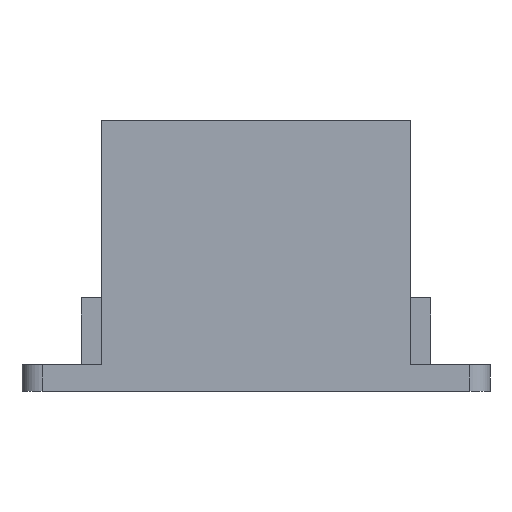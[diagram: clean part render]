
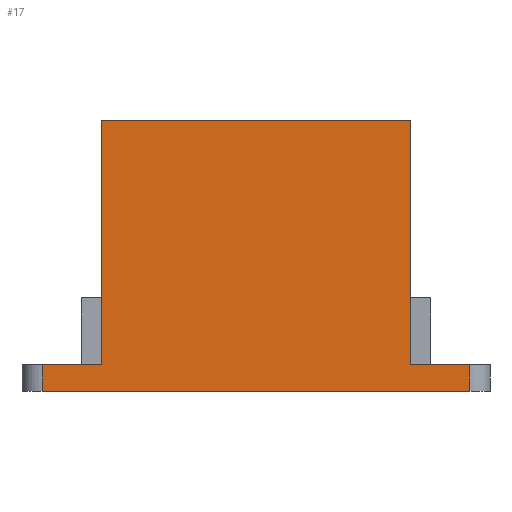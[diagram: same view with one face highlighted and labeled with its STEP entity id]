
A CAD part, front view. The second image highlights one B-rep face of the part: STEP entity #17.
In plain terms, the highlighted planar face has unit normal (0, -1, 0).
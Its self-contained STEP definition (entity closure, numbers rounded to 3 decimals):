
#17 = ADVANCED_FACE('',(#18),#32,.F.);
#18 = FACE_BOUND('',#19,.F.);
#19 = EDGE_LOOP('',(#20,#55,#83,#111,#139,#167,#195,#218));
#20 = ORIENTED_EDGE('',*,*,#21,.F.);
#21 = EDGE_CURVE('',#22,#24,#26,.T.);
#22 = VERTEX_POINT('',#23);
#23 = CARTESIAN_POINT('',(-32.,-19.86,0.));
#24 = VERTEX_POINT('',#25);
#25 = CARTESIAN_POINT('',(32.,-19.86,0.));
#26 = SURFACE_CURVE('',#27,(#31,#43),.PCURVE_S1.);
#27 = LINE('',#28,#29);
#28 = CARTESIAN_POINT('',(-32.,-19.86,0.));
#29 = VECTOR('',#30,1.);
#30 = DIRECTION('',(1.,0.,0.));
#31 = PCURVE('',#32,#37);
#32 = PLANE('',#33);
#33 = AXIS2_PLACEMENT_3D('',#34,#35,#36);
#34 = CARTESIAN_POINT('',(-35.,-19.86,0.));
#35 = DIRECTION('',(0.,1.,0.));
#36 = DIRECTION('',(1.,0.,0.));
#37 = DEFINITIONAL_REPRESENTATION('',(#38),#42);
#38 = LINE('',#39,#40);
#39 = CARTESIAN_POINT('',(3.,0.));
#40 = VECTOR('',#41,1.);
#41 = DIRECTION('',(1.,0.));
#42 = ( GEOMETRIC_REPRESENTATION_CONTEXT(2) 
PARAMETRIC_REPRESENTATION_CONTEXT() REPRESENTATION_CONTEXT('2D SPACE',''
  ) );
#43 = PCURVE('',#44,#49);
#44 = PLANE('',#45);
#45 = AXIS2_PLACEMENT_3D('',#46,#47,#48);
#46 = CARTESIAN_POINT('',(0.,0.,0.));
#47 = DIRECTION('',(0.,0.,1.));
#48 = DIRECTION('',(1.,0.,-0.));
#49 = DEFINITIONAL_REPRESENTATION('',(#50),#54);
#50 = LINE('',#51,#52);
#51 = CARTESIAN_POINT('',(-32.,-19.86));
#52 = VECTOR('',#53,1.);
#53 = DIRECTION('',(1.,0.));
#54 = ( GEOMETRIC_REPRESENTATION_CONTEXT(2) 
PARAMETRIC_REPRESENTATION_CONTEXT() REPRESENTATION_CONTEXT('2D SPACE',''
  ) );
#55 = ORIENTED_EDGE('',*,*,#56,.T.);
#56 = EDGE_CURVE('',#22,#57,#59,.T.);
#57 = VERTEX_POINT('',#58);
#58 = CARTESIAN_POINT('',(-32.,-19.86,4.));
#59 = SURFACE_CURVE('',#60,(#64,#71),.PCURVE_S1.);
#60 = LINE('',#61,#62);
#61 = CARTESIAN_POINT('',(-32.,-19.86,0.));
#62 = VECTOR('',#63,1.);
#63 = DIRECTION('',(0.,0.,1.));
#64 = PCURVE('',#32,#65);
#65 = DEFINITIONAL_REPRESENTATION('',(#66),#70);
#66 = LINE('',#67,#68);
#67 = CARTESIAN_POINT('',(3.,0.));
#68 = VECTOR('',#69,1.);
#69 = DIRECTION('',(0.,-1.));
#70 = ( GEOMETRIC_REPRESENTATION_CONTEXT(2) 
PARAMETRIC_REPRESENTATION_CONTEXT() REPRESENTATION_CONTEXT('2D SPACE',''
  ) );
#71 = PCURVE('',#72,#77);
#72 = CYLINDRICAL_SURFACE('',#73,3.);
#73 = AXIS2_PLACEMENT_3D('',#74,#75,#76);
#74 = CARTESIAN_POINT('',(-32.,-16.86,0.));
#75 = DIRECTION('',(0.,0.,1.));
#76 = DIRECTION('',(0.,-1.,0.));
#77 = DEFINITIONAL_REPRESENTATION('',(#78),#82);
#78 = LINE('',#79,#80);
#79 = CARTESIAN_POINT('',(-0.,0.));
#80 = VECTOR('',#81,1.);
#81 = DIRECTION('',(-0.,1.));
#82 = ( GEOMETRIC_REPRESENTATION_CONTEXT(2) 
PARAMETRIC_REPRESENTATION_CONTEXT() REPRESENTATION_CONTEXT('2D SPACE',''
  ) );
#83 = ORIENTED_EDGE('',*,*,#84,.T.);
#84 = EDGE_CURVE('',#57,#85,#87,.T.);
#85 = VERTEX_POINT('',#86);
#86 = CARTESIAN_POINT('',(-23.11,-19.86,4.));
#87 = SURFACE_CURVE('',#88,(#92,#99),.PCURVE_S1.);
#88 = LINE('',#89,#90);
#89 = CARTESIAN_POINT('',(-35.,-19.86,4.));
#90 = VECTOR('',#91,1.);
#91 = DIRECTION('',(1.,0.,0.));
#92 = PCURVE('',#32,#93);
#93 = DEFINITIONAL_REPRESENTATION('',(#94),#98);
#94 = LINE('',#95,#96);
#95 = CARTESIAN_POINT('',(0.,-4.));
#96 = VECTOR('',#97,1.);
#97 = DIRECTION('',(1.,0.));
#98 = ( GEOMETRIC_REPRESENTATION_CONTEXT(2) 
PARAMETRIC_REPRESENTATION_CONTEXT() REPRESENTATION_CONTEXT('2D SPACE',''
  ) );
#99 = PCURVE('',#100,#105);
#100 = PLANE('',#101);
#101 = AXIS2_PLACEMENT_3D('',#102,#103,#104);
#102 = CARTESIAN_POINT('',(0.,0.,4.));
#103 = DIRECTION('',(0.,0.,1.));
#104 = DIRECTION('',(1.,0.,-0.));
#105 = DEFINITIONAL_REPRESENTATION('',(#106),#110);
#106 = LINE('',#107,#108);
#107 = CARTESIAN_POINT('',(-35.,-19.86));
#108 = VECTOR('',#109,1.);
#109 = DIRECTION('',(1.,0.));
#110 = ( GEOMETRIC_REPRESENTATION_CONTEXT(2) 
PARAMETRIC_REPRESENTATION_CONTEXT() REPRESENTATION_CONTEXT('2D SPACE',''
  ) );
#111 = ORIENTED_EDGE('',*,*,#112,.T.);
#112 = EDGE_CURVE('',#85,#113,#115,.T.);
#113 = VERTEX_POINT('',#114);
#114 = CARTESIAN_POINT('',(-23.11,-19.86,40.5));
#115 = SURFACE_CURVE('',#116,(#120,#127),.PCURVE_S1.);
#116 = LINE('',#117,#118);
#117 = CARTESIAN_POINT('',(-23.11,-19.86,0.));
#118 = VECTOR('',#119,1.);
#119 = DIRECTION('',(0.,0.,1.));
#120 = PCURVE('',#32,#121);
#121 = DEFINITIONAL_REPRESENTATION('',(#122),#126);
#122 = LINE('',#123,#124);
#123 = CARTESIAN_POINT('',(11.89,0.));
#124 = VECTOR('',#125,1.);
#125 = DIRECTION('',(0.,-1.));
#126 = ( GEOMETRIC_REPRESENTATION_CONTEXT(2) 
PARAMETRIC_REPRESENTATION_CONTEXT() REPRESENTATION_CONTEXT('2D SPACE',''
  ) );
#127 = PCURVE('',#128,#133);
#128 = PLANE('',#129);
#129 = AXIS2_PLACEMENT_3D('',#130,#131,#132);
#130 = CARTESIAN_POINT('',(-23.11,-12.86,0.));
#131 = DIRECTION('',(1.,0.,-0.));
#132 = DIRECTION('',(0.,-1.,0.));
#133 = DEFINITIONAL_REPRESENTATION('',(#134),#138);
#134 = LINE('',#135,#136);
#135 = CARTESIAN_POINT('',(7.,0.));
#136 = VECTOR('',#137,1.);
#137 = DIRECTION('',(0.,-1.));
#138 = ( GEOMETRIC_REPRESENTATION_CONTEXT(2) 
PARAMETRIC_REPRESENTATION_CONTEXT() REPRESENTATION_CONTEXT('2D SPACE',''
  ) );
#139 = ORIENTED_EDGE('',*,*,#140,.T.);
#140 = EDGE_CURVE('',#113,#141,#143,.T.);
#141 = VERTEX_POINT('',#142);
#142 = CARTESIAN_POINT('',(23.11,-19.86,40.5));
#143 = SURFACE_CURVE('',#144,(#148,#155),.PCURVE_S1.);
#144 = LINE('',#145,#146);
#145 = CARTESIAN_POINT('',(-23.11,-19.86,40.5));
#146 = VECTOR('',#147,1.);
#147 = DIRECTION('',(1.,0.,0.));
#148 = PCURVE('',#32,#149);
#149 = DEFINITIONAL_REPRESENTATION('',(#150),#154);
#150 = LINE('',#151,#152);
#151 = CARTESIAN_POINT('',(11.89,-40.5));
#152 = VECTOR('',#153,1.);
#153 = DIRECTION('',(1.,0.));
#154 = ( GEOMETRIC_REPRESENTATION_CONTEXT(2) 
PARAMETRIC_REPRESENTATION_CONTEXT() REPRESENTATION_CONTEXT('2D SPACE',''
  ) );
#155 = PCURVE('',#156,#161);
#156 = PLANE('',#157);
#157 = AXIS2_PLACEMENT_3D('',#158,#159,#160);
#158 = CARTESIAN_POINT('',(0.,-16.36,40.5));
#159 = DIRECTION('',(0.,0.,1.));
#160 = DIRECTION('',(1.,0.,-0.));
#161 = DEFINITIONAL_REPRESENTATION('',(#162),#166);
#162 = LINE('',#163,#164);
#163 = CARTESIAN_POINT('',(-23.11,-3.5));
#164 = VECTOR('',#165,1.);
#165 = DIRECTION('',(1.,0.));
#166 = ( GEOMETRIC_REPRESENTATION_CONTEXT(2) 
PARAMETRIC_REPRESENTATION_CONTEXT() REPRESENTATION_CONTEXT('2D SPACE',''
  ) );
#167 = ORIENTED_EDGE('',*,*,#168,.F.);
#168 = EDGE_CURVE('',#169,#141,#171,.T.);
#169 = VERTEX_POINT('',#170);
#170 = CARTESIAN_POINT('',(23.11,-19.86,4.));
#171 = SURFACE_CURVE('',#172,(#176,#183),.PCURVE_S1.);
#172 = LINE('',#173,#174);
#173 = CARTESIAN_POINT('',(23.11,-19.86,0.));
#174 = VECTOR('',#175,1.);
#175 = DIRECTION('',(0.,0.,1.));
#176 = PCURVE('',#32,#177);
#177 = DEFINITIONAL_REPRESENTATION('',(#178),#182);
#178 = LINE('',#179,#180);
#179 = CARTESIAN_POINT('',(58.11,0.));
#180 = VECTOR('',#181,1.);
#181 = DIRECTION('',(0.,-1.));
#182 = ( GEOMETRIC_REPRESENTATION_CONTEXT(2) 
PARAMETRIC_REPRESENTATION_CONTEXT() REPRESENTATION_CONTEXT('2D SPACE',''
  ) );
#183 = PCURVE('',#184,#189);
#184 = PLANE('',#185);
#185 = AXIS2_PLACEMENT_3D('',#186,#187,#188);
#186 = CARTESIAN_POINT('',(23.11,-19.86,0.));
#187 = DIRECTION('',(-1.,0.,0.));
#188 = DIRECTION('',(0.,1.,0.));
#189 = DEFINITIONAL_REPRESENTATION('',(#190),#194);
#190 = LINE('',#191,#192);
#191 = CARTESIAN_POINT('',(0.,0.));
#192 = VECTOR('',#193,1.);
#193 = DIRECTION('',(0.,-1.));
#194 = ( GEOMETRIC_REPRESENTATION_CONTEXT(2) 
PARAMETRIC_REPRESENTATION_CONTEXT() REPRESENTATION_CONTEXT('2D SPACE',''
  ) );
#195 = ORIENTED_EDGE('',*,*,#196,.T.);
#196 = EDGE_CURVE('',#169,#197,#199,.T.);
#197 = VERTEX_POINT('',#198);
#198 = CARTESIAN_POINT('',(32.,-19.86,4.));
#199 = SURFACE_CURVE('',#200,(#204,#211),.PCURVE_S1.);
#200 = LINE('',#201,#202);
#201 = CARTESIAN_POINT('',(-35.,-19.86,4.));
#202 = VECTOR('',#203,1.);
#203 = DIRECTION('',(1.,0.,0.));
#204 = PCURVE('',#32,#205);
#205 = DEFINITIONAL_REPRESENTATION('',(#206),#210);
#206 = LINE('',#207,#208);
#207 = CARTESIAN_POINT('',(0.,-4.));
#208 = VECTOR('',#209,1.);
#209 = DIRECTION('',(1.,0.));
#210 = ( GEOMETRIC_REPRESENTATION_CONTEXT(2) 
PARAMETRIC_REPRESENTATION_CONTEXT() REPRESENTATION_CONTEXT('2D SPACE',''
  ) );
#211 = PCURVE('',#100,#212);
#212 = DEFINITIONAL_REPRESENTATION('',(#213),#217);
#213 = LINE('',#214,#215);
#214 = CARTESIAN_POINT('',(-35.,-19.86));
#215 = VECTOR('',#216,1.);
#216 = DIRECTION('',(1.,0.));
#217 = ( GEOMETRIC_REPRESENTATION_CONTEXT(2) 
PARAMETRIC_REPRESENTATION_CONTEXT() REPRESENTATION_CONTEXT('2D SPACE',''
  ) );
#218 = ORIENTED_EDGE('',*,*,#219,.F.);
#219 = EDGE_CURVE('',#24,#197,#220,.T.);
#220 = SURFACE_CURVE('',#221,(#225,#232),.PCURVE_S1.);
#221 = LINE('',#222,#223);
#222 = CARTESIAN_POINT('',(32.,-19.86,0.));
#223 = VECTOR('',#224,1.);
#224 = DIRECTION('',(0.,0.,1.));
#225 = PCURVE('',#32,#226);
#226 = DEFINITIONAL_REPRESENTATION('',(#227),#231);
#227 = LINE('',#228,#229);
#228 = CARTESIAN_POINT('',(67.,0.));
#229 = VECTOR('',#230,1.);
#230 = DIRECTION('',(0.,-1.));
#231 = ( GEOMETRIC_REPRESENTATION_CONTEXT(2) 
PARAMETRIC_REPRESENTATION_CONTEXT() REPRESENTATION_CONTEXT('2D SPACE',''
  ) );
#232 = PCURVE('',#233,#238);
#233 = CYLINDRICAL_SURFACE('',#234,3.);
#234 = AXIS2_PLACEMENT_3D('',#235,#236,#237);
#235 = CARTESIAN_POINT('',(32.,-16.86,0.));
#236 = DIRECTION('',(0.,0.,1.));
#237 = DIRECTION('',(0.,-1.,0.));
#238 = DEFINITIONAL_REPRESENTATION('',(#239),#243);
#239 = LINE('',#240,#241);
#240 = CARTESIAN_POINT('',(0.,0.));
#241 = VECTOR('',#242,1.);
#242 = DIRECTION('',(0.,1.));
#243 = ( GEOMETRIC_REPRESENTATION_CONTEXT(2) 
PARAMETRIC_REPRESENTATION_CONTEXT() REPRESENTATION_CONTEXT('2D SPACE',''
  ) );
